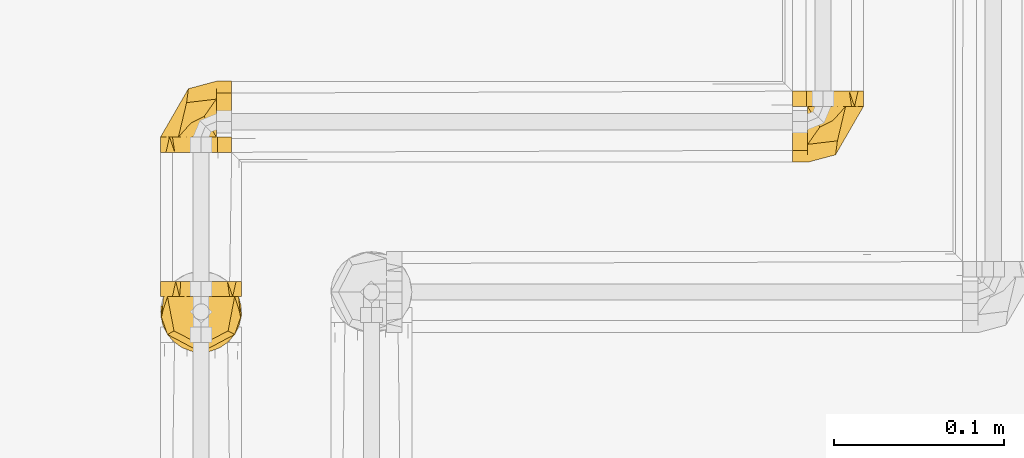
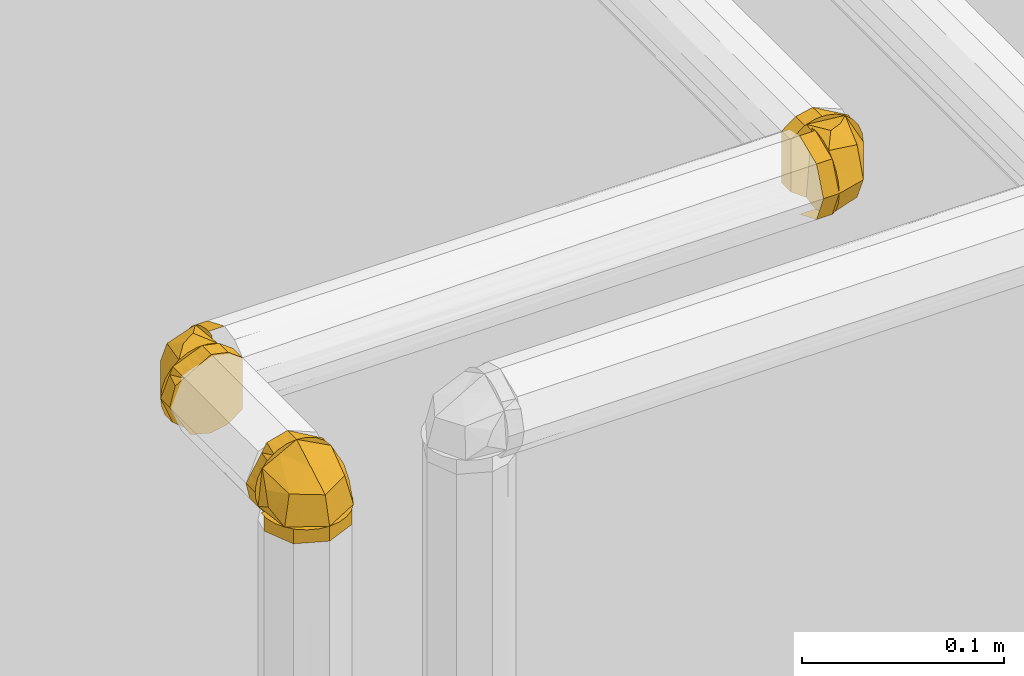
# One storey, part 284 of 652: 3 coverings.
"""IFC2X3 building model written with IfcOpenShell, lengths in millimetres."""

from ifc_helpers import new_model, entity, si_unit, converted_unit, direction, frame, origin, place, context, subcontext, project, spatial, face_set, surface_model, material, type_object, element, save


model = new_model("IFC2X3")

# Units and contexts
model_context = context("Model", 3, precision=0.01, world=frame((0.0, 0.0, 308426.39999999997)), true_north=direction((6.123233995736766e-17, 1.0)))
plan_context = context("Plan", 3, precision=0.01, world=frame((0.0, 0.0, 308426.39999999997)), true_north=direction((6.123233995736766e-17, 1.0)))
body_context = subcontext(model_context, "Body", "Model", "MODEL_VIEW")
ifc_project = project(units=[si_unit("LENGTHUNIT", "METRE", prefix="MILLI"), si_unit("AREAUNIT", "SQUARE_METRE"), si_unit("VOLUMEUNIT", "CUBIC_METRE"), converted_unit("PLANEANGLEUNIT", "DEGREE", entity("IfcPlaneAngleMeasure", 0.017453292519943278), si_unit("PLANEANGLEUNIT", "RADIAN"), dimensions=[0, 0, 0, 0, 0, 0, 0])], contexts=[model_context, plan_context])

# Site, building, storey
site_placement = place(None, origin())
site = spatial("IfcSite", under=ifc_project, at=site_placement, Name="Default", CompositionType="ELEMENT")
building_placement = place(site_placement, origin())
building = spatial("IfcBuilding", under=site, at=building_placement, CompositionType="ELEMENT")
storey_placement = place(building_placement, frame((0.0, 0.0, 1730.6999999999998)))
storey = spatial("IfcBuildingStorey", under=building, at=storey_placement, Name="EG_Produktion_FFB", CompositionType="ELEMENT", Elevation=1730.6999999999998)

# Coverings
ifc_material = material(Name="Dämmung - Armaflex-Schlauch")
covering_type = type_object("IfcCoveringType", Name="Rohrdämmung außen:Armaflex-Schlauch", PredefinedType="INSULATION")
covering_1_placement = place(storey_placement, frame((14970.611079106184, 39106.232060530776, 4174.642227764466)))
element("IfcCovering", 1, at=covering_1_placement, inside=storey, type_object=covering_type, material=ifc_material, Name="Rohrdämmung außen:Armaflex-Schlauch", ObjectType="Rohrdämmung außen:Armaflex-Schlauch", PredefinedType="INSULATION", context=body_context, shape_type="SurfaceModel", body=[
    surface_model("IfcFaceBasedSurfaceModel", [(10.458420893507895, 34.28827223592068, 3.337268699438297), (10.45842089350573, 28.691896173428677, 1.83034093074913), (10.45842089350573, 22.897179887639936, 1.723011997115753), (10.458420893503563, 17.248839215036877, 3.0216666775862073), (10.458420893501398, 12.082882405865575, 5.649050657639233), (10.458420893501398, 7.706621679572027, 9.44886623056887), (10.458420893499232, 4.380391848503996, 14.195070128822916), (10.458420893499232, 2.3020635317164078, 19.605320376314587), (10.458420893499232, 1.5952722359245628, 25.35777223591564), (10.458420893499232, 2.3020635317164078, 31.110224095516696), (10.458420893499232, 4.380391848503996, 36.52047434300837), (10.458420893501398, 7.706621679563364, 41.26667824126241), (10.458420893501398, 12.082882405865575, 45.06649381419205), (10.458420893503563, 17.248839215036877, 47.693877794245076), (10.45842089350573, 22.897179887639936, 48.99253247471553), (10.45842089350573, 28.691896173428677, 48.885203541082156), (10.458420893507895, 34.28827223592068, 47.37827577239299), (16.054796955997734, 34.28827223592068, 1.83034093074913), (21.849513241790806, 34.28827223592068, 1.723011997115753), (27.497853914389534, 34.28827223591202, 3.0216666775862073), (32.66381072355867, 34.28827223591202, 5.649050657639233), (37.04007144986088, 34.28827223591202, 9.44886623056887), (40.366301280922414, 34.28827223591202, 14.195070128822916), (42.444629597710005, 34.28827223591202, 19.605320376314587), (43.151420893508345, 34.28827223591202, 25.35777223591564), (42.444629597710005, 34.28827223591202, 31.110224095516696), (40.366301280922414, 34.28827223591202, 36.52047434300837), (37.04007144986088, 34.28827223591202, 41.26667824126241), (32.66381072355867, 34.28827223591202, 45.06649381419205), (27.497853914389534, 34.28827223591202, 47.693877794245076), (21.849513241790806, 34.28827223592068, 48.99253247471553), (16.054796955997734, 34.28827223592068, 48.885203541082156), (25.36544372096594, 26.16538819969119, 2.9988778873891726), (27.879243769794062, 14.152167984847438, 9.49906251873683), (21.431962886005, 34.29047364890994, 4.479601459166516), (10.458214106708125, 6.775874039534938, 15.617875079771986), (26.80489074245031, 5.975922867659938, 25.35797822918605), (37.90770141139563, 34.29047364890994, 15.503347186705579), (35.606679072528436, 21.221503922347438, 25.35797822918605), (17.538014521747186, 22.221442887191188, 2.140209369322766), (10.458214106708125, 23.18417482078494, 4.4929727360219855), (25.36544372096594, 26.16538819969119, 47.71707857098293), (17.538014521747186, 22.221442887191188, 48.57574708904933), (27.879243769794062, 14.152167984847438, 41.21631257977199), (10.458214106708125, 6.775874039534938, 35.09750001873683), (21.431962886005, 34.29047364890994, 46.2357736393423), (37.96816283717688, 34.29047364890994, 35.09750001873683), (34.97764770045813, 20.13319825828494, 25.35797822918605), (10.458214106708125, 23.18417482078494, 46.22240236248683), (1.4389971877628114, 25.356135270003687, 1.595475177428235), (10.458214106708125, 25.356135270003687, 1.595475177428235), (10.458214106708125, 8.557160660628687, 8.55493410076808), (1.4389971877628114, 8.557160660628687, 8.55493410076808), (10.458214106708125, 1.5947949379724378, 25.35797822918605), (1.4389971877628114, 1.5947949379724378, 25.35797822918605), (10.458214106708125, 8.557160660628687, 42.160440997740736), (1.4389971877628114, 8.557160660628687, 42.160440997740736), (10.458214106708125, 25.356135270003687, 49.120481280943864), (1.4389971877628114, 25.356135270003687, 49.120481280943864), (24.533653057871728, 43.30802223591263, 46.14995973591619), (29.678385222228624, 43.30802223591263, 43.17964723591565), (34.823117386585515, 43.30802223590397, 40.209334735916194), (39.96784955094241, 43.30802223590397, 37.23902223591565), (41.55963522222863, 43.30802223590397, 31.298397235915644), (43.151420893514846, 43.30802223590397, 25.35777223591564), (40.18110839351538, 43.30802223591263, 20.213040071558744), (37.21079589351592, 43.30802223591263, 15.06830790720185), (34.240483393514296, 43.30802223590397, 9.923575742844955), (31.270170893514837, 43.30802223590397, 4.7788435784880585), (25.32954589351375, 43.30802223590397, 3.1870579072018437), (19.388920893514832, 43.30802223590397, 1.595272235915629), (14.510241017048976, 43.30802223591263, 2.643120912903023), (9.631561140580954, 43.30802223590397, 3.690969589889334), (5.61341668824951, 43.30802223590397, 6.649688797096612), (1.5952722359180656, 43.30802223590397, 9.608408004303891), (1.5952722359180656, 43.30802223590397, 41.10713646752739), (5.61341668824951, 43.30802223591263, 44.06585567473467), (9.631561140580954, 43.30802223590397, 47.02457488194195), (14.510241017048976, 43.30802223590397, 48.07242355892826), (19.388920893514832, 43.30802223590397, 49.12027223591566), (9.631561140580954, 34.28827223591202, 47.024574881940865), (5.504797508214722, 34.28827223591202, 43.985875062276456), (1.5952722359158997, 34.28827223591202, 41.10713646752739), (1.5952722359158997, 34.28827223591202, 9.608408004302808), (5.61341668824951, 34.28827223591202, 6.649688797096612), (9.631561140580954, 34.28827223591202, 3.690969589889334), (14.64212234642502, 34.28827223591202, 2.6147952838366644), (19.388920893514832, 34.28827223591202, 1.595272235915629), (23.58957711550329, 34.28827223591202, 3.335241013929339), (27.790233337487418, 34.28827223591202, 5.075209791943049), (31.99088955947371, 34.28827223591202, 6.8151785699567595), (36.19154578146, 34.28827223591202, 8.55514734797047), (37.9315145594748, 34.28827223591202, 12.755803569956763), (39.67148333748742, 34.28827223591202, 16.956459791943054), (41.41145211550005, 34.28827223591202, 21.157116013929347), (43.151420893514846, 34.28827223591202, 25.35777223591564), (41.41145211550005, 34.28827223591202, 29.558428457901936), (39.67148333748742, 34.28827223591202, 33.759084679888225), (37.9315145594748, 34.28827223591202, 37.95974090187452), (36.19154578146, 34.28827223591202, 42.16039712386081), (31.99088955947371, 34.28827223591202, 43.90036590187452), (27.790233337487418, 34.28827223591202, 45.640334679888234), (23.589577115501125, 34.28827223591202, 47.380303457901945), (19.388920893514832, 34.28827223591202, 49.12027223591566), (14.510241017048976, 34.28827223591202, 48.07242355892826)], [face_set([[[0, 1, 2, 3, 4, 5, 6, 7, 8, 9, 10, 11, 12, 13, 14, 15]], [[16, 17, 18, 19, 20, 21, 22, 23, 24, 25, 26, 27, 28, 29, 30, 31]], [[32, 20, 33]], [[32, 34, 20]], [[33, 35, 4]], [[35, 33, 36]], [[36, 8, 35]], [[33, 37, 38]], [[39, 4, 40]], [[32, 33, 39]], [[34, 32, 0]], [[4, 39, 33]], [[38, 36, 33]], [[0, 32, 39]], [[33, 20, 37]], [[37, 24, 38]], [[0, 39, 40]], [[41, 16, 42]], [[43, 44, 36]], [[28, 45, 41]], [[46, 43, 47]], [[44, 8, 36]], [[12, 43, 42]], [[44, 43, 12]], [[42, 16, 48]], [[28, 43, 46]], [[16, 41, 45]], [[43, 41, 42]], [[43, 36, 47]], [[47, 24, 46]], [[28, 41, 43]], [[48, 12, 42]]]), face_set([[[49, 50, 51, 52]], [[53, 54, 52, 51]], [[54, 53, 55, 56]], [[57, 58, 56, 55]]]), face_set([[[59, 60, 61, 62, 63, 64, 65, 66, 67, 68, 69, 70, 71, 72, 73, 74, 75, 76, 77, 78, 79]], [[80, 81, 82, 83, 84, 85, 86, 87, 88, 89, 90, 91, 92, 93, 94, 95, 96, 97, 98, 99, 100, 101, 102, 103, 104]], [[75, 74, 83, 82]], [[71, 70, 87, 86, 85, 72]], [[73, 72, 85, 84, 83, 74]], [[90, 67, 91]], [[64, 94, 65]], [[94, 93, 65]], [[69, 89, 88]], [[88, 87, 70]], [[67, 90, 68]], [[66, 93, 92]], [[64, 95, 94]], [[93, 66, 65]], [[70, 69, 88]], [[92, 91, 67]], [[90, 89, 68]], [[69, 68, 89]], [[66, 92, 67]], [[98, 61, 99]], [[79, 102, 59]], [[102, 101, 59]], [[63, 97, 96]], [[96, 95, 64]], [[61, 98, 62]], [[60, 101, 100]], [[79, 103, 102]], [[101, 60, 59]], [[64, 63, 96]], [[100, 99, 61]], [[98, 97, 62]], [[63, 62, 97]], [[60, 100, 61]], [[76, 75, 82, 81, 80, 77]], [[78, 77, 80, 104, 103, 79]]])]),
])
covering_2_placement = place(storey_placement, frame((14599.642227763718, 39112.200911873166, 4174.642227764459)))
element("IfcCovering", 2, at=covering_2_placement, inside=storey, type_object=covering_type, material=ifc_material, Name="Rohrdämmung außen:Armaflex-Schlauch", ObjectType="Rohrdämmung außen:Armaflex-Schlauch", PredefinedType="INSULATION", context=body_context, shape_type="SurfaceModel", body=[
    surface_model("IfcFaceBasedSurfaceModel", [(34.28827223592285, 10.458420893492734, 3.337268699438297), (34.288272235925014, 16.054796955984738, 48.885203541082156), (34.288272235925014, 21.84951324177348, 48.99253247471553), (34.28827223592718, 27.497853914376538, 47.693877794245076), (34.28827223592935, 32.66381072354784, 45.06649381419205), (34.28827223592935, 37.04007144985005, 41.26667824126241), (34.28827223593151, 40.36630128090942, 36.52047434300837), (34.28827223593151, 42.44462959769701, 31.110224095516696), (34.28827223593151, 43.151420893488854, 25.35777223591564), (34.28827223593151, 42.44462959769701, 19.605320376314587), (34.28827223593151, 40.36630128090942, 14.195070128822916), (34.28827223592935, 37.04007144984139, 9.44886623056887), (34.28827223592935, 32.66381072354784, 5.649050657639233), (34.28827223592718, 27.497853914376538, 3.0216666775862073), (34.288272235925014, 21.84951324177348, 1.723011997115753), (34.288272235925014, 16.054796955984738, 1.83034093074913), (34.28827223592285, 10.458420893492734, 47.37827577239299), (28.69189617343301, 10.458420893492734, 48.885203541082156), (22.897179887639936, 10.458420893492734, 48.99253247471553), (17.24883921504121, 10.458420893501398, 47.693877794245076), (12.082882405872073, 10.458420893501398, 45.06649381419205), (7.706621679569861, 10.458420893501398, 41.26667824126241), (4.380391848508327, 10.458420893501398, 36.52047434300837), (2.3020635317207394, 10.458420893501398, 31.110224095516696), (1.595272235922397, 10.458420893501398, 25.35777223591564), (2.3020635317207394, 10.458420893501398, 19.605320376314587), (4.380391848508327, 10.458420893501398, 14.195070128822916), (7.706621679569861, 10.458420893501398, 9.44886623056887), (12.082882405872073, 10.458420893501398, 5.649050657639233), (17.24883921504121, 10.458420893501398, 3.0216666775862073), (22.897179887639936, 10.458420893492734, 1.723011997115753), (28.69189617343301, 10.458420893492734, 1.83034093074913), (19.38172243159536, 18.582681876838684, 2.9988778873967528), (16.86675966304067, 30.595902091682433, 9.49906251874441), (23.314040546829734, 10.457596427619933, 4.479601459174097), (34.28778932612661, 37.96754515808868, 15.617875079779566), (17.942275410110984, 38.77214720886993, 25.357978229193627), (6.839464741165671, 10.457596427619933, 15.50334718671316), (9.140487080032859, 23.526566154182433, 25.357978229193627), (27.207988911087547, 22.521976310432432, 2.1402093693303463), (34.28778932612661, 21.559244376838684, 4.492972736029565), (19.38172243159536, 18.582681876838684, 47.7170785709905), (27.207988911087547, 22.521976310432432, 48.57574708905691), (16.86675966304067, 30.595902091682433, 41.21631257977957), (34.28778932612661, 37.96754515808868, 35.09750001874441), (23.314040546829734, 10.457596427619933, 46.23577363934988), (6.7778405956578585, 10.457596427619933, 35.09750001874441), (9.768355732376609, 24.614871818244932, 25.357978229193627), (34.28778932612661, 21.559244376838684, 46.222402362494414), (43.30816896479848, 19.387283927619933, 1.5954751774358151), (34.28778932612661, 19.387283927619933, 1.5954751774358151), (34.28778932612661, 36.19090941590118, 8.55493410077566), (43.30816896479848, 36.19090941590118, 8.55493410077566), (34.28778932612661, 43.15327513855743, 25.357978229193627), (43.30816896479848, 43.15327513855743, 25.357978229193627), (34.28778932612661, 36.19090941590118, 42.16044099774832), (43.30816896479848, 36.19090941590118, 42.16044099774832), (34.28778932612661, 19.387283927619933, 49.120481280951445), (43.30816896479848, 19.387283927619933, 49.120481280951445), (20.213040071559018, 1.4386708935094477, 46.14995973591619), (15.06830790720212, 1.4386708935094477, 43.17964723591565), (9.92357574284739, 1.4386708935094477, 40.209334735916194), (4.778843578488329, 1.4386708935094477, 37.23902223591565), (3.1870579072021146, 1.4386708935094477, 31.298397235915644), (1.5952722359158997, 1.4386708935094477, 25.35777223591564), (4.5655847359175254, 1.4386708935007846, 20.213040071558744), (7.53589723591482, 1.4386708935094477, 15.06830790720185), (10.506209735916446, 1.4386708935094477, 9.923575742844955), (13.476522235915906, 1.4386708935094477, 4.7788435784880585), (19.417147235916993, 1.4386708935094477, 3.1870579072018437), (25.357772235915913, 1.4386708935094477, 1.595272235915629), (30.23645211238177, 1.4386708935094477, 2.64312091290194), (35.11513198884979, 1.4386708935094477, 3.690969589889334), (39.13327644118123, 1.4386708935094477, 6.649688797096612), (43.15142089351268, 1.4386708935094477, 9.608408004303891), (43.15142089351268, 1.4386708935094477, 41.10713646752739), (39.13327644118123, 1.4386708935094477, 44.06585567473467), (35.11513198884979, 1.4386708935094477, 47.02457488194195), (30.23645211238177, 1.4386708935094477, 48.072423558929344), (25.357772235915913, 1.4386708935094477, 49.12027223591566), (35.11513198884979, 10.458420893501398, 47.024574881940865), (39.241895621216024, 10.458420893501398, 43.985875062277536), (43.151420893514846, 10.458420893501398, 41.10713646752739), (43.151420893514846, 10.458420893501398, 9.608408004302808), (39.13327644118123, 10.458420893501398, 6.649688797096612), (35.11513198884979, 10.458420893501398, 3.690969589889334), (30.104570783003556, 10.458420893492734, 2.614795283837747), (25.357772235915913, 10.458420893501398, 1.595272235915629), (21.157116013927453, 10.458420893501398, 3.335241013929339), (16.956459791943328, 10.458420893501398, 5.075209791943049), (12.755803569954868, 10.458420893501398, 6.8151785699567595), (8.55514734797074, 10.458420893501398, 8.55514734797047), (6.815178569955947, 10.458420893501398, 12.755803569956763), (5.07520979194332, 10.458420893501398, 16.956459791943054), (3.3352410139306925, 10.458420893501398, 21.157116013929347), (1.5952722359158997, 10.458420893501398, 25.35777223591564), (3.3352410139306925, 10.458420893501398, 29.558428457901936), (5.07520979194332, 10.458420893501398, 33.759084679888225), (6.815178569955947, 10.458420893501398, 37.95974090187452), (8.55514734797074, 10.458420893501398, 42.16039712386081), (12.755803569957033, 10.458420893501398, 43.90036590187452), (16.956459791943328, 10.458420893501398, 45.640334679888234), (21.157116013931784, 10.45842089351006, 47.380303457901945), (25.357772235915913, 10.458420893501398, 49.12027223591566), (30.23645211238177, 10.458420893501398, 48.072423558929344)], [face_set([[[0, 1, 2, 3, 4, 5, 6, 7, 8, 9, 10, 11, 12, 13, 14, 15]], [[16, 17, 18, 19, 20, 21, 22, 23, 24, 25, 26, 27, 28, 29, 30, 31]], [[32, 28, 33]], [[32, 34, 28]], [[33, 35, 12]], [[35, 33, 36]], [[36, 8, 35]], [[33, 37, 38]], [[39, 12, 40]], [[32, 33, 39]], [[34, 32, 0]], [[12, 39, 33]], [[38, 36, 33]], [[0, 32, 39]], [[33, 28, 37]], [[37, 24, 38]], [[0, 39, 40]], [[41, 16, 42]], [[43, 44, 36]], [[20, 45, 41]], [[46, 43, 47]], [[44, 8, 36]], [[4, 43, 42]], [[44, 43, 4]], [[42, 16, 48]], [[20, 43, 46]], [[16, 41, 45]], [[43, 41, 42]], [[43, 36, 47]], [[47, 24, 46]], [[20, 41, 43]], [[48, 4, 42]]]), face_set([[[49, 50, 51, 52]], [[53, 54, 52, 51]], [[54, 53, 55, 56]], [[57, 58, 56, 55]]]), face_set([[[59, 60, 61, 62, 63, 64, 65, 66, 67, 68, 69, 70, 71, 72, 73, 74, 75, 76, 77, 78, 79]], [[80, 81, 82, 83, 84, 85, 86, 87, 88, 89, 90, 91, 92, 93, 94, 95, 96, 97, 98, 99, 100, 101, 102, 103, 104]], [[75, 74, 83, 82]], [[71, 70, 87, 86, 85, 72]], [[73, 72, 85, 84, 83, 74]], [[90, 67, 91]], [[64, 94, 65]], [[94, 93, 65]], [[69, 89, 88]], [[88, 87, 70]], [[67, 90, 68]], [[66, 93, 92]], [[64, 95, 94]], [[93, 66, 65]], [[70, 69, 88]], [[92, 91, 67]], [[90, 89, 68]], [[69, 68, 89]], [[66, 92, 67]], [[98, 61, 99]], [[79, 102, 59]], [[102, 101, 59]], [[63, 97, 96]], [[96, 95, 64]], [[61, 98, 62]], [[60, 101, 100]], [[79, 103, 102]], [[101, 60, 59]], [[64, 63, 96]], [[100, 99, 61]], [[98, 97, 62]], [[63, 62, 97]], [[60, 100, 61]], [[76, 75, 82, 81, 80, 77]], [[78, 77, 80, 104, 103, 79]]])]),
])
covering_3_placement = place(storey_placement, frame((14599.642227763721, 38994.6422277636, 4180.611079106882)))
element("IfcCovering", 3, at=covering_3_placement, inside=storey, type_object=covering_type, material=ifc_material, Name="Rohrdämmung außen:Armaflex-Schlauch", ObjectType="Rohrdämmung außen:Armaflex-Schlauch", PredefinedType="INSULATION", context=body_context, shape_type="SurfaceModel", body=[
    surface_model("IfcFaceBasedSurfaceModel", [(47.37827577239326, 34.28827223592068, 10.458420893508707), (48.885203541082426, 28.691896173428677, 10.458420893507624), (48.99253247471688, 22.897179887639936, 10.458420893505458), (47.693877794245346, 17.248839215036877, 10.458420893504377), (45.06649381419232, 12.082882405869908, 10.458420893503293), (41.26667824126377, 7.706621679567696, 10.45842089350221), (36.52047434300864, 4.380391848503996, 10.458420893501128), (31.11022409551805, 2.3020635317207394, 10.458420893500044), (25.357772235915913, 1.5952722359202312, 10.458420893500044), (19.60532037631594, 2.3020635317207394, 10.458420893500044), (14.195070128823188, 4.380391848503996, 10.458420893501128), (9.448866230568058, 7.706621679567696, 10.45842089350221), (5.649050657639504, 12.082882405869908, 10.458420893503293), (3.0216666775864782, 17.248839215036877, 10.458420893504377), (1.7230119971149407, 22.897179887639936, 10.458420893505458), (1.8303409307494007, 28.691896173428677, 10.458420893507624), (3.3372686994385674, 34.28827223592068, 10.458420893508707), (48.885203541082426, 34.28827223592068, 16.054796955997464), (48.99253247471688, 34.28827223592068, 21.84951324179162), (47.693877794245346, 34.28827223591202, 27.497853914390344), (45.06649381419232, 34.28827223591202, 32.66381072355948), (41.26667824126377, 34.28827223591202, 37.04007144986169), (36.52047434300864, 34.28827223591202, 40.36630128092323), (31.11022409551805, 34.28827223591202, 42.444629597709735), (25.357772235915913, 34.28827223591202, 43.15142089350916), (19.60532037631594, 34.28827223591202, 42.444629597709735), (14.195070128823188, 34.28827223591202, 40.36630128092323), (9.448866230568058, 34.28827223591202, 37.04007144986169), (5.649050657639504, 34.28827223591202, 32.663810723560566), (3.0216666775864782, 34.28827223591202, 27.497853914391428), (1.7230119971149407, 34.28827223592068, 21.84951324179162), (1.8303409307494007, 34.28827223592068, 16.054796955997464), (47.717202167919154, 26.166683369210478, 25.36550628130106), (41.216436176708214, 14.151137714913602, 27.879306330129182), (46.235897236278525, 34.28711793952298, 21.43202544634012), (35.09820497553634, 6.777169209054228, 10.458276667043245), (25.358101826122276, 5.974892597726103, 26.80495330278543), (35.21215150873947, 34.28711793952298, 37.907763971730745), (25.358101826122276, 21.21814821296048, 35.60674163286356), (48.57528932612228, 22.22273805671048, 17.53865844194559), (46.22194459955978, 23.185469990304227, 10.458276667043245), (2.999001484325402, 26.166683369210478, 25.36550628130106), (2.139751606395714, 22.22273805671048, 17.53865844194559), (9.498604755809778, 14.151137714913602, 27.879306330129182), (15.617998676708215, 6.777169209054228, 10.458276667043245), (4.480306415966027, 34.28711793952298, 21.43202544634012), (15.617998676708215, 34.28711793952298, 37.968806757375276), (25.358101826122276, 20.12984254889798, 34.97829162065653), (4.493096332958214, 23.185469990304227, 10.458276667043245), (49.12060487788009, 25.35743043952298, 1.4384783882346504), (49.12060487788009, 25.35743043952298, 10.458276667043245), (42.16056459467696, 8.556130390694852, 10.458276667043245), (42.16056459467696, 8.556130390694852, 1.4384783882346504), (25.358101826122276, 1.5960901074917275, 10.458276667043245), (25.358101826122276, 1.5960901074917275, 1.4384783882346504), (8.55563905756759, 8.556130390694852, 10.458276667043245), (8.55563905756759, 8.556130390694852, 1.4384783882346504), (1.5955987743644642, 25.35743043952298, 10.458276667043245), (1.5955987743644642, 25.35743043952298, 1.4384783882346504), (4.56558473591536, 43.30802223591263, 24.533653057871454), (7.53589723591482, 43.30802223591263, 29.678385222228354), (10.506209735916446, 43.30802223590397, 34.823117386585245), (13.476522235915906, 43.30802223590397, 39.96784955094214), (19.417147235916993, 43.30802223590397, 41.55963522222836), (25.357772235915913, 43.30802223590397, 43.151420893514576), (30.50250440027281, 43.30802223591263, 40.18110839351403), (35.6472365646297, 43.30802223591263, 37.21079589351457), (40.791968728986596, 43.30802223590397, 34.240483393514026), (45.93670089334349, 43.30802223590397, 31.270170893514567), (47.52848656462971, 43.30802223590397, 25.329545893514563), (49.12027223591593, 43.30802223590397, 19.38892089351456), (48.07242355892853, 43.30802223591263, 14.510241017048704), (47.024574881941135, 43.30802223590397, 9.631561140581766), (44.06585567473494, 43.30802223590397, 5.613416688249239), (41.10713646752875, 43.30802223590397, 1.595272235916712), (9.608408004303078, 43.30802223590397, 1.595272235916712), (6.649688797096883, 43.30802223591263, 5.613416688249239), (3.690969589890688, 43.30802223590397, 9.631561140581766), (2.6431209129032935, 43.30802223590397, 14.510241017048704), (1.5952722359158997, 43.30802223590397, 19.38892089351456), (3.690969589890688, 34.28827223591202, 9.631561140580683), (6.729669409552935, 34.28827223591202, 5.504797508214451), (9.608408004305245, 34.28827223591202, 1.595272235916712), (41.10713646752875, 34.28827223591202, 1.595272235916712), (44.06585567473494, 34.28827223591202, 5.613416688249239), (47.024574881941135, 34.28827223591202, 9.631561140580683), (48.100749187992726, 34.28827223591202, 14.64212234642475), (49.12027223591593, 34.28827223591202, 19.38892089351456), (47.380303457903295, 34.28827223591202, 23.589577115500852), (45.640334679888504, 34.28827223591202, 27.790233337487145), (43.90036590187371, 34.28827223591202, 31.99088955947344), (42.16039712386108, 34.28827223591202, 36.19154578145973), (37.959740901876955, 34.28827223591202, 37.93151455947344), (33.759084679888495, 34.28827223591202, 39.67148333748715), (29.55842845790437, 34.28827223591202, 41.411452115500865), (25.357772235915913, 34.28827223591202, 43.151420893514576), (21.157116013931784, 34.28827223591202, 41.411452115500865), (16.956459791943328, 34.28827223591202, 39.67148333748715), (12.755803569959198, 34.28827223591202, 37.93151455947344), (8.55514734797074, 34.28827223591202, 36.19154578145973), (6.815178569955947, 34.28827223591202, 31.99088955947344), (5.07520979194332, 34.28827223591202, 27.790233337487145), (3.3352410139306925, 34.28827223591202, 23.589577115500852), (1.5952722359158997, 34.28827223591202, 19.38892089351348), (2.6431209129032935, 34.28827223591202, 14.510241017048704)], [face_set([[[0, 1, 2, 3, 4, 5, 6, 7, 8, 9, 10, 11, 12, 13, 14, 15]], [[16, 17, 18, 19, 20, 21, 22, 23, 24, 25, 26, 27, 28, 29, 30, 31]], [[32, 20, 33]], [[32, 34, 20]], [[33, 35, 4]], [[35, 33, 36]], [[36, 8, 35]], [[33, 37, 38]], [[39, 4, 40]], [[32, 33, 39]], [[34, 32, 0]], [[4, 39, 33]], [[38, 36, 33]], [[0, 32, 39]], [[33, 20, 37]], [[37, 24, 38]], [[0, 39, 40]], [[41, 16, 42]], [[43, 44, 36]], [[28, 45, 41]], [[46, 43, 47]], [[44, 8, 36]], [[12, 43, 42]], [[44, 43, 12]], [[42, 16, 48, 12]], [[28, 43, 46]], [[16, 41, 45]], [[43, 41, 42]], [[43, 36, 47]], [[47, 24, 46]], [[28, 41, 43]]]), face_set([[[49, 50, 51, 52]], [[53, 54, 52, 51]], [[54, 53, 55, 56]], [[57, 58, 56, 55]]]), face_set([[[59, 60, 61, 62, 63, 64, 65, 66, 67, 68, 69, 70, 71, 72, 73, 74, 75, 76, 77, 78, 79]], [[80, 81, 82, 83, 84, 85, 86, 87, 88, 89, 90, 91, 92, 93, 94, 95, 96, 97, 98, 99, 100, 101, 102, 103, 104]], [[75, 74, 83, 82]], [[71, 70, 87, 86, 85, 72]], [[73, 72, 85, 84, 83, 74]], [[90, 67, 91]], [[64, 94, 65]], [[94, 93, 65]], [[69, 89, 88]], [[88, 87, 70]], [[67, 90, 68]], [[66, 93, 92]], [[64, 95, 94]], [[93, 66, 65]], [[70, 69, 88]], [[92, 91, 67]], [[90, 89, 68]], [[69, 68, 89]], [[66, 92, 67]], [[98, 61, 99]], [[79, 102, 59]], [[102, 101, 59]], [[63, 97, 96]], [[96, 95, 64]], [[61, 98, 62]], [[60, 101, 100]], [[79, 103, 102]], [[101, 60, 59]], [[64, 63, 96]], [[100, 99, 61]], [[98, 97, 62]], [[63, 62, 97]], [[60, 100, 61]], [[76, 75, 82, 81, 80, 77]], [[78, 77, 80, 104, 103, 79]]])]),
])

save(model, "model.ifc")
